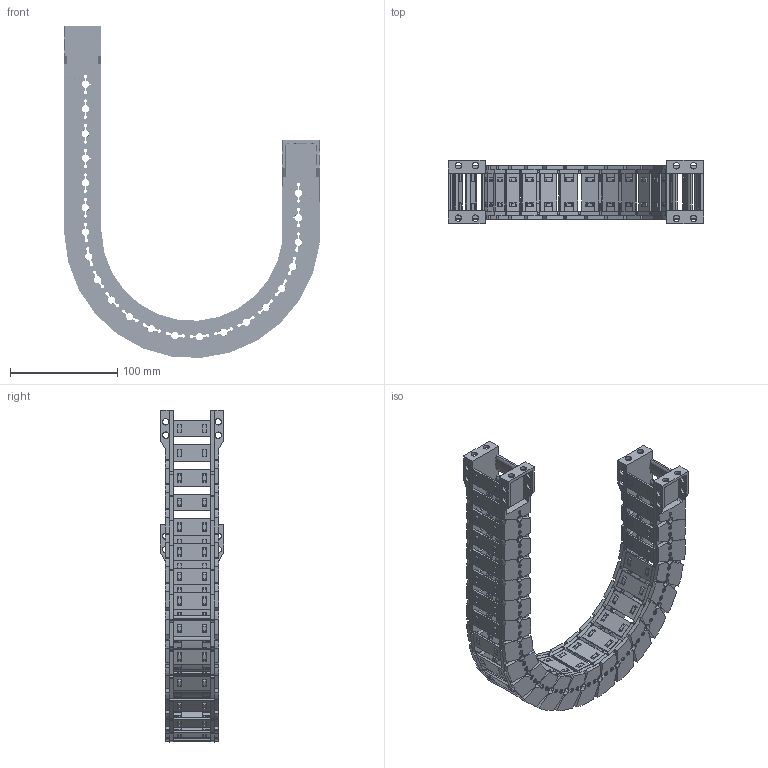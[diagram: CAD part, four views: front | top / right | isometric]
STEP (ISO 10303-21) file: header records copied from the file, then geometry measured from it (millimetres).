
FILE_DESCRIPTION(/* description */ (''),/* implementation_level */ '2;1');
FILE_NAME(/* name */ 'JY28-35-R100.stp',/* time_stamp */ '2026-06-03T13:51:30+08:00',/* author */ (''),/* organization */ (''),/* preprocessor_version */ 'ST-DEVELOPER v19.4',/* originating_system */ 'SIEMENS PLM Software NX2306.5001',/* authorisation */ '');
FILE_SCHEMA (('AP203_CONFIGURATION_CONTROLLED_3D_DESIGN_OF_MECHANICAL_PARTS_AND_ASSEMBLIES_MIM_LF { 1 0 10303 403 2 1 2}'));
Products named in the file (1): _model1_objects
Bounding box: 238.21 x 59 x 309.61 mm (x, y, z)
Volume: 328846.9 mm3; surface area: 241710.1 mm2
Topology: 86 solids, 86 shells, 7166 faces, 20384 edges, 13324 vertices
Faces by surface type: plane 4694, cone 1300, cylinder 1128, bspline 42, torus 2
Full cylindrical faces by diameter (mm): 6 x24
Entity records: 242416 total; most frequent: CARTESIAN_POINT 53852, ORIENTED_EDGE 40676, DIRECTION 38192, EDGE_CURVE 20338, LINE 13462, VECTOR 13462, VERTEX_POINT 13302, AXIS2_PLACEMENT_3D 12365
